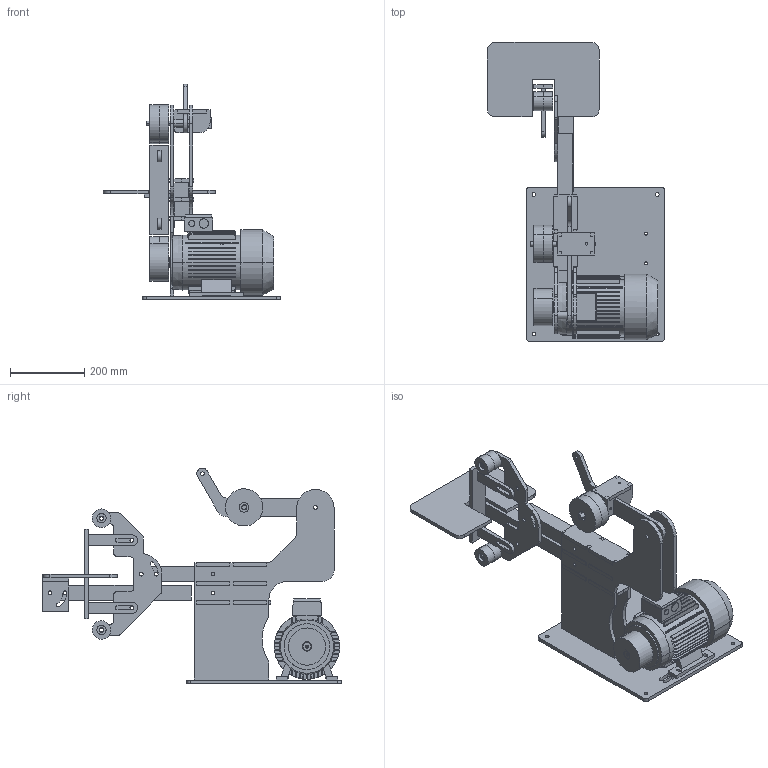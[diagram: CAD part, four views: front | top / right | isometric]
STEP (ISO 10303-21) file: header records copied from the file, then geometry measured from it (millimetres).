
FILE_DESCRIPTION(('CATIA V5 STEP Exchange'),'2;1');
FILE_NAME('C:\Users\Generador\Documents\Lijadora web cesar\Lijadora descargar 2025.stp','2025-07-28T15:09:04+00:00',('none'),('none'),'CATIA Version 5 Release 20 GA (IN-10)','CATIA V5 STEP AP203','none');
FILE_SCHEMA(('CONFIG_CONTROL_DESIGN'));
Products named in the file (3): Lijadora descargar 2025; ensamblaje mesa; conjunto sufridera
Assembly tree (28 placements, depth 3):
  Lijadora descargar 2025
    #58
    #1803  x2
    #3495  x3
    #4234
    #4827
    #5367  x2
    #5942
    ensamblaje mesa
      #5942
      #6270
      #6760
      #7291
    conjunto sufridera
      #7614
      #8963
      #9456  x2
    #9950
    #10119  x2
    #10516
    #10898
    #11280
    #102464
Bounding box: 476 x 802.77 x 579.2 mm (x, y, z)
Volume: 13022236 mm3; surface area: 1768208.3 mm2
Topology: 91 solids, 91 shells, 2969 faces, 8195 edges, 5456 vertices
Faces by surface type: bspline 1154, plane 1087, cylinder 648, torus 70, cone 10
Entity records: 102721 total; most frequent: CARTESIAN_POINT 42405, ORIENTED_EDGE 15520, EDGE_CURVE 7760, DIRECTION 6819, VERTEX_POINT 5160, B_SPLINE_CURVE_WITH_KNOTS 4153, EDGE_LOOP 3000, ADVANCED_FACE 2808
